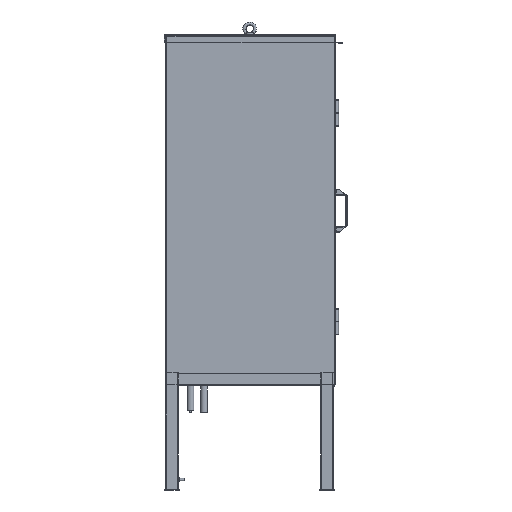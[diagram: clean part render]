
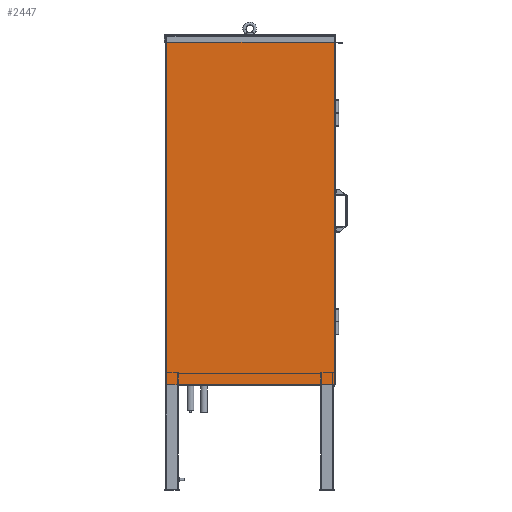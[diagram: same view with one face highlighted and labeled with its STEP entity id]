
A CAD part, left-side view. The second image highlights one B-rep face of the part: STEP entity #2447.
In plain terms, the highlighted planar face has unit normal (-1, 0, 0).
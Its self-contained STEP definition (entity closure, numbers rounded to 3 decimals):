
#2447=ADVANCED_FACE('',(#17869),#17871,.T.);
#17869=FACE_BOUND('',#17870,.T.);
#17870=EDGE_LOOP('',(#26805,#26806,#26807,#26808));
#17871=PLANE('',#17872);
#17872=AXIS2_PLACEMENT_3D('',#17873,#17874,#17875);
#17873=CARTESIAN_POINT('',(-678.,619.,-1322.5));
#17874=DIRECTION('',(-1.,0.,0.));
#17875=DIRECTION('',(0.,-1.,0.));
#26805=ORIENTED_EDGE('',*,*,#32030,.T.);
#26806=ORIENTED_EDGE('',*,*,#32031,.T.);
#26807=ORIENTED_EDGE('',*,*,#32032,.T.);
#26808=ORIENTED_EDGE('',*,*,#31860,.F.);
#31860=EDGE_CURVE('',#36287,#36289,#36290,.T.);
#32030=EDGE_CURVE('',#36287,#36554,#36555,.T.);
#32031=EDGE_CURVE('',#36554,#36556,#36557,.T.);
#32032=EDGE_CURVE('',#36556,#36289,#36558,.T.);
#36287=VERTEX_POINT('',#47886);
#36289=VERTEX_POINT('',#47891);
#36290=LINE('',#47892,#47893);
#36554=VERTEX_POINT('',#48847);
#36555=LINE('',#48848,#48849);
#36556=VERTEX_POINT('',#48851);
#36557=LINE('',#48852,#48853);
#36558=LINE('',#48855,#48856);
#47886=CARTESIAN_POINT('',(-678.,619.,-1322.5));
#47891=CARTESIAN_POINT('',(-678.,619.,23.5));
#47892=CARTESIAN_POINT('',(-678.,619.,-1322.5));
#47893=VECTOR('',#47894,1.);
#47894=DIRECTION('',(0.,0.,1.));
#48847=CARTESIAN_POINT('',(-678.,-27.,-1322.5));
#48848=CARTESIAN_POINT('',(-678.,619.,-1322.5));
#48849=VECTOR('',#48850,1.);
#48850=DIRECTION('',(0.,-1.,0.));
#48851=CARTESIAN_POINT('',(-678.,-27.,23.5));
#48852=CARTESIAN_POINT('',(-678.,-27.,-1322.5));
#48853=VECTOR('',#48854,1.);
#48854=DIRECTION('',(0.,0.,1.));
#48855=CARTESIAN_POINT('',(-678.,-27.,23.5));
#48856=VECTOR('',#48857,1.);
#48857=DIRECTION('',(0.,1.,0.));
